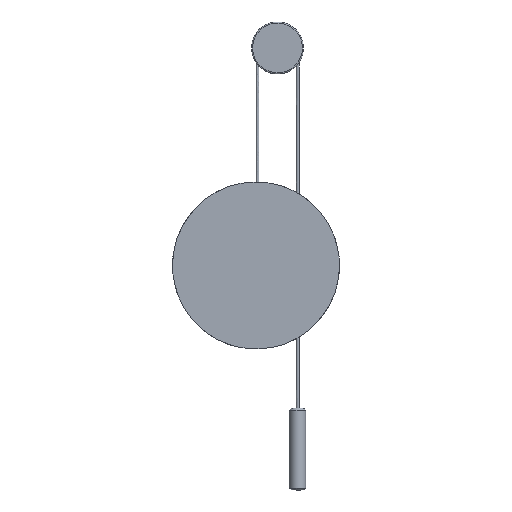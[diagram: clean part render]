
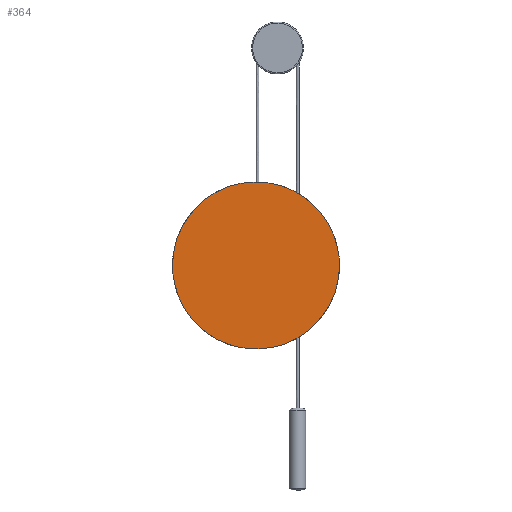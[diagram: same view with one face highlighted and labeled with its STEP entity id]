
A CAD part, front view. The second image highlights one B-rep face of the part: STEP entity #364.
In plain terms, the highlighted planar face has unit normal (0, -1, 0).
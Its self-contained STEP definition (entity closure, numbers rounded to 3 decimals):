
#364=ADVANCED_FACE('',(#525),#2233,.T.);
#525=FACE_OUTER_BOUND('',#664,.T.);
#664=EDGE_LOOP('',(#848,#849));
#848=ORIENTED_EDGE('',*,*,#1389,.F.);
#849=ORIENTED_EDGE('',*,*,#1385,.F.);
#1385=EDGE_CURVE('',#1952,#1953,#1691,.T.);
#1389=EDGE_CURVE('',#1953,#1952,#1695,.T.);
#1691=(
BOUNDED_CURVE()
B_SPLINE_CURVE(2,(#2750,#2751,#2752,#2753,#2754),.UNSPECIFIED.,.F.,.F.)
B_SPLINE_CURVE_WITH_KNOTS((3,2,3),(0.,353.429,706.858),
 .UNSPECIFIED.)
CURVE()
GEOMETRIC_REPRESENTATION_ITEM()
RATIONAL_B_SPLINE_CURVE((1.,0.707,1.,0.707,1.))
REPRESENTATION_ITEM('')
);
#1695=(
BOUNDED_CURVE()
B_SPLINE_CURVE(2,(#2764,#2765,#2766,#2767,#2768),.UNSPECIFIED.,.F.,.F.)
B_SPLINE_CURVE_WITH_KNOTS((3,2,3),(706.858,1060.288,1413.717),
 .UNSPECIFIED.)
CURVE()
GEOMETRIC_REPRESENTATION_ITEM()
RATIONAL_B_SPLINE_CURVE((1.,0.707,1.,0.707,1.))
REPRESENTATION_ITEM('')
);
#1952=VERTEX_POINT('',#2747);
#1953=VERTEX_POINT('',#2748);
#2233=PLANE('',#2285);
#2285=AXIS2_PLACEMENT_3D('',#2725,#2322,$);
#2322=DIRECTION('',(0.,-1.,0.));
#2725=CARTESIAN_POINT('',(-339.25,65.25,-304.75));
#2747=CARTESIAN_POINT('',(167.,65.25,-586.));
#2748=CARTESIAN_POINT('',(-283.,65.25,-586.));
#2750=CARTESIAN_POINT('',(167.,65.25,-586.));
#2751=CARTESIAN_POINT('',(167.,65.25,-811.));
#2752=CARTESIAN_POINT('',(-58.,65.25,-811.));
#2753=CARTESIAN_POINT('',(-283.,65.25,-811.));
#2754=CARTESIAN_POINT('',(-283.,65.25,-586.));
#2764=CARTESIAN_POINT('',(-283.,65.25,-586.));
#2765=CARTESIAN_POINT('',(-283.,65.25,-361.));
#2766=CARTESIAN_POINT('',(-58.,65.25,-361.));
#2767=CARTESIAN_POINT('',(167.,65.25,-361.));
#2768=CARTESIAN_POINT('',(167.,65.25,-586.));
